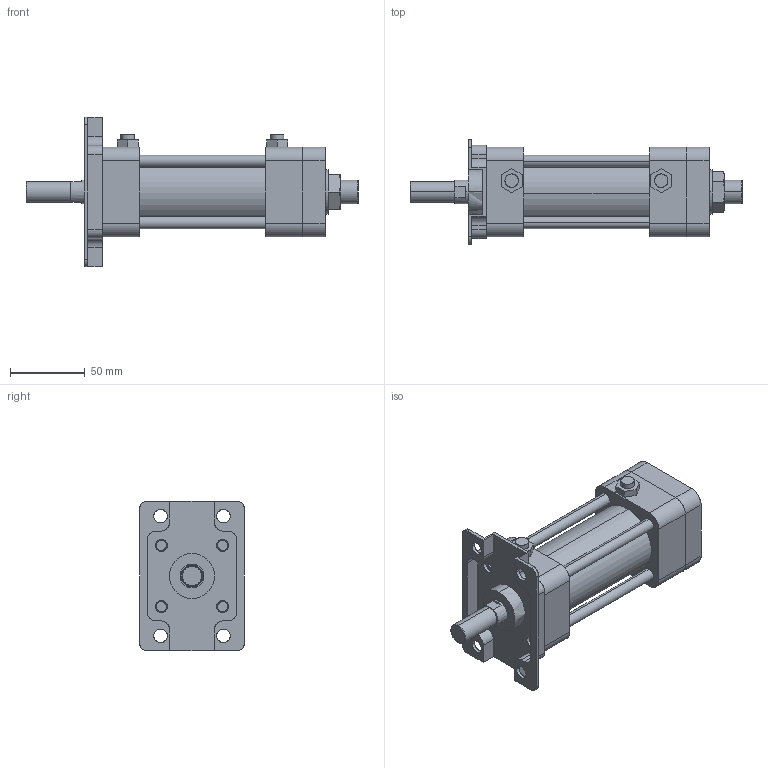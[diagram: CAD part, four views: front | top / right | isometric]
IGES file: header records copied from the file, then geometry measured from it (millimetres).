
Start section: SolidWorks IGES file using analytic representation for surfaces
Global section: file name: C:\Users\Toshiba\Desktop\KGA2-40#-50-A.IGS; native system: SolidWorks 2014; preprocessor: SolidWorks 2014; author: Toshiba; date: 160414.151120; units: millimetre
Bounding box: 222 x 70 x 100 mm (x, y, z)
Surface area: 115072.4 mm2 (no closed solid volume)
Topology: 0 solids, 0 shells, 466 faces, 7251 edges, 7217 vertices
Faces by surface type: revolution 242, bspline 224
